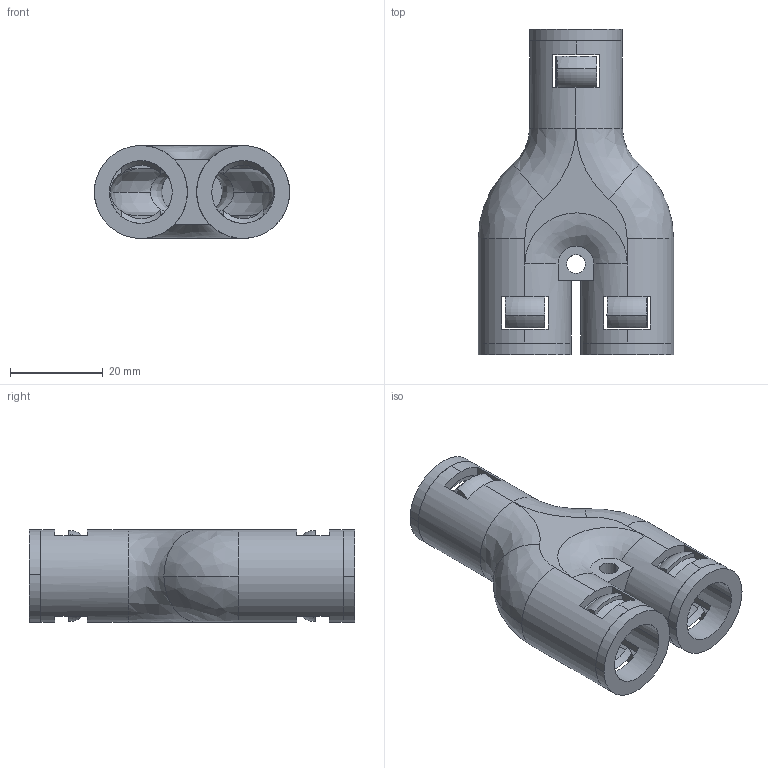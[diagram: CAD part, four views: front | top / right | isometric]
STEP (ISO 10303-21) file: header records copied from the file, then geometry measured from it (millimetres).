
FILE_DESCRIPTION (( 'STEP AP203' ), '1' );
FILE_NAME ('WQY-PA-AD13.0-2X13.0.STEP', '2012-06-06T08:16:21', ( '迾輿躂瑞' ), ( 'WwW.YlmF.CoM' ), 'SwSTEP 2.0', 'SolidWorks 2010', '' );
FILE_SCHEMA (( 'CONFIG_CONTROL_DESIGN' ));
Length unit declared in the file: millimetre
Products named in the file (3): NSK-AD13.0; WQY-PA-AD13.0-2X13.0
Assembly tree (4 placements, depth 2):
  WQY-PA-AD13.0-2X13.0
    NSK-AD13.0  x3
    WQY-PA-AD13.0-2X13.0
Bounding box: 42 x 70 x 20 mm (x, y, z)
Surface area: 16784 mm2 (no closed solid volume)
Topology: 0 solids, 10 shells, 196 faces, 557 edges, 366 vertices
Faces by surface type: plane 106, cylinder 51, bspline 21, torus 12, cone 6
Entity records: 6003 total; most frequent: CARTESIAN_POINT 2303, ORIENTED_EDGE 742, DIRECTION 672, EDGE_CURVE 377, AXIS2_PLACEMENT_3D 250, VERTEX_POINT 246, VECTOR 172, LINE 172
